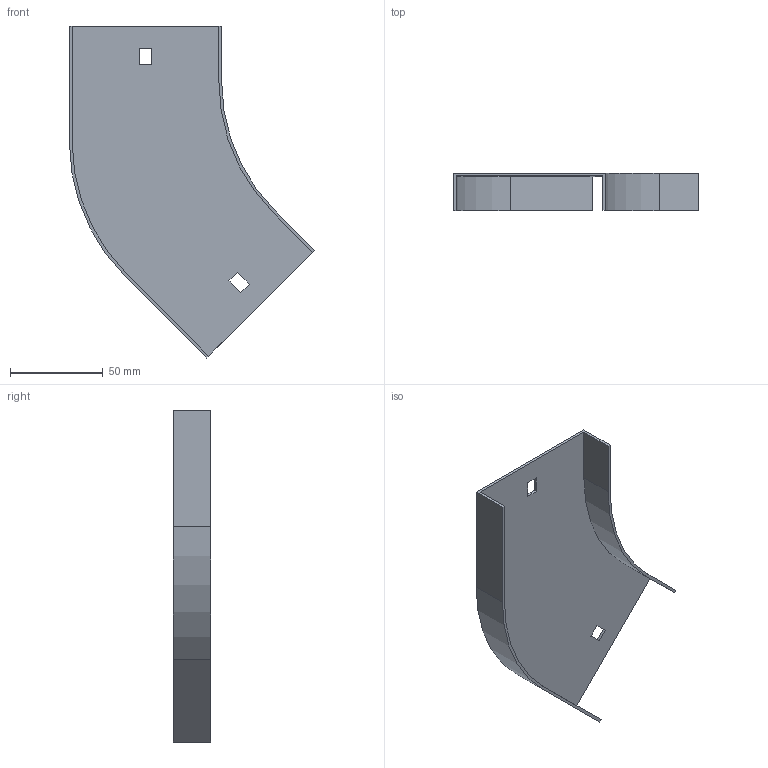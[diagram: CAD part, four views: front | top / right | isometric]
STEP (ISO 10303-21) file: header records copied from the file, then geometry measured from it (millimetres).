
FILE_DESCRIPTION (( 'STEP AP214' ), '1' );
FILE_NAME ('11G1P075.step', '2025-02-21T12:45:45', ( '' ), ( '' ), 'SwSTEP 2.0', 'SolidWorks 2023', '' );
FILE_SCHEMA (( 'AUTOMOTIVE_DESIGN' ));
Length unit declared in the file: millimetre
Products named in the file (1): 11G1P075
Bounding box: 132.06 x 20 x 178.85 mm (x, y, z)
Volume: 30904.8 mm3; surface area: 42170.2 mm2
Topology: 1 solids, 1 shells, 26 faces, 72 edges, 48 vertices
Faces by surface type: plane 22, cylinder 4
Entity records: 855 total; most frequent: CARTESIAN_POINT 147, ORIENTED_EDGE 144, DIRECTION 134, EDGE_CURVE 72, VECTOR 64, LINE 64, VERTEX_POINT 48, AXIS2_PLACEMENT_3D 35
